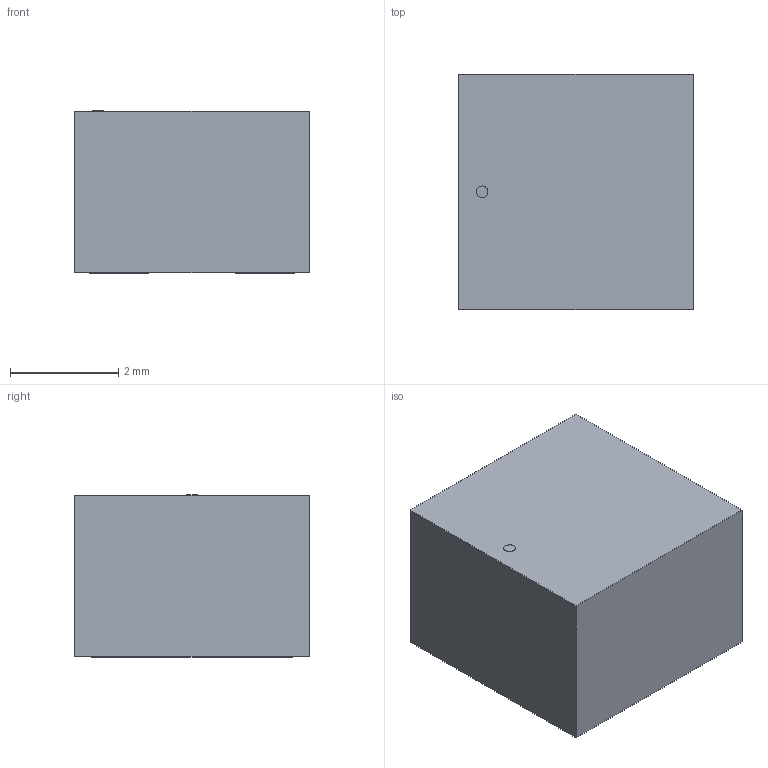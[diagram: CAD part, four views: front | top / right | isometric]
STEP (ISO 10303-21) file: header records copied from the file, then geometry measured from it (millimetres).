
FILE_DESCRIPTION(('STEP AP214'),'1');
FILE_NAME('IND_SRP4030FA_BRN','2025-03-31T04:50:30',(''),(''),'','','');
FILE_SCHEMA(('AUTOMOTIVE_DESIGN'));
Length unit declared in the file: millimetre
Products named in the file (1): product
Bounding box: 4.34 x 4.34 x 3 mm (x, y, z)
Volume: 56.5 mm3; surface area: 106.1 mm2
Topology: 4 solids, 4 shells, 21 faces, 39 edges, 26 vertices
Faces by surface type: plane 20, cylinder 1
Full cylindrical faces by diameter (mm): 0.217 x1
Entity records: 661 total; most frequent: DIRECTION 86, ORIENTED_EDGE 76, CARTESIAN_POINT 51, EDGE_CURVE 38, LINE 36, VECTOR 36, VERTEX_POINT 26, AXIS2_PLACEMENT_3D 25
